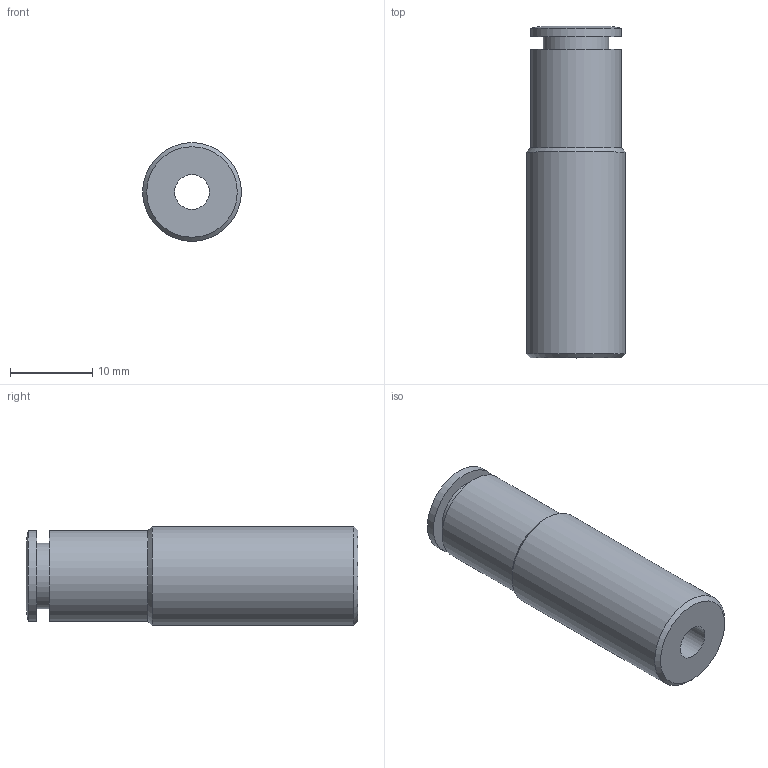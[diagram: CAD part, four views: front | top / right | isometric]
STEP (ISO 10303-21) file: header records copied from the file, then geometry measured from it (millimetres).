
FILE_DESCRIPTION((''),'2;1');
FILE_NAME('C:\Documents and Settings\rivolro1\Documenti\copia di Raccordi\PLASTICA\T08XXXX\T081206.stp','2007-10-30T17:05:23',('Rivolro1'),(''),'Autodesk Inventor 2008','Autodesk Inventor 2008','');
FILE_SCHEMA(('AUTOMOTIVE_DESIGN { 1 0 10303 214 1 1 1 1 }'));
Length unit declared in the file: millimetre
Products named in the file (1): T081206
Bounding box: 12 x 40.3 x 12 mm (x, y, z)
Volume: 3366.9 mm3; surface area: 2355.8 mm2
Topology: 1 solids, 1 shells, 14 faces, 23 edges, 14 vertices
Faces by surface type: cylinder 5, plane 4, cone 3, bspline 2
Full cylindrical faces by diameter (mm): 4.2 x1, 8 x1, 11 x2, 12 x1
Entity records: 343 total; most frequent: CARTESIAN_POINT 63, DIRECTION 54, ORIENTED_EDGE 28, EDGE_LOOP 28, AXIS2_PLACEMENT_3D 27, VERTEX_POINT 14, CIRCLE 14, EDGE_CURVE 14
